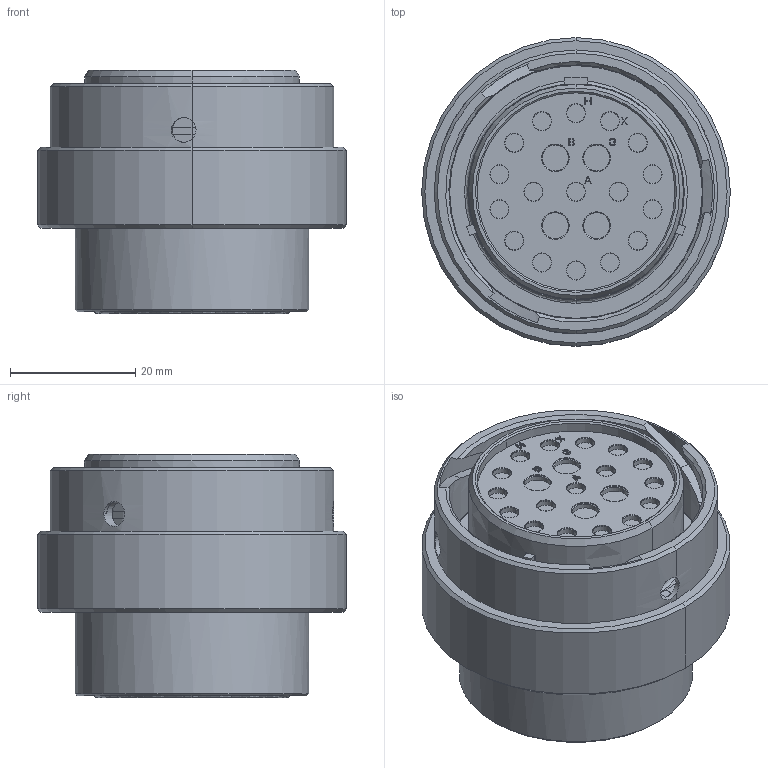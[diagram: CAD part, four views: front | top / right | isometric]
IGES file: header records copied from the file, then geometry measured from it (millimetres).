
Start section:  PTC IGES file: c-hd36-24-21se-99-3d.igs
Global section: file name: c-hd36-24-21se-99-3d.igs; native system: Pro/ENGINEER by Parametric Technology Corporation; preprocessor: 2011490; author: workeradm; organization: Unknown; units: millimetre
Bounding box: 49.33 x 49.33 x 38.89 mm (x, y, z)
Surface area: 15749.8 mm2 (no closed solid volume)
Topology: 0 solids, 0 shells, 583 faces, 2786 edges, 2786 vertices
Faces by surface type: revolution 322, bspline 255, extrusion 6
